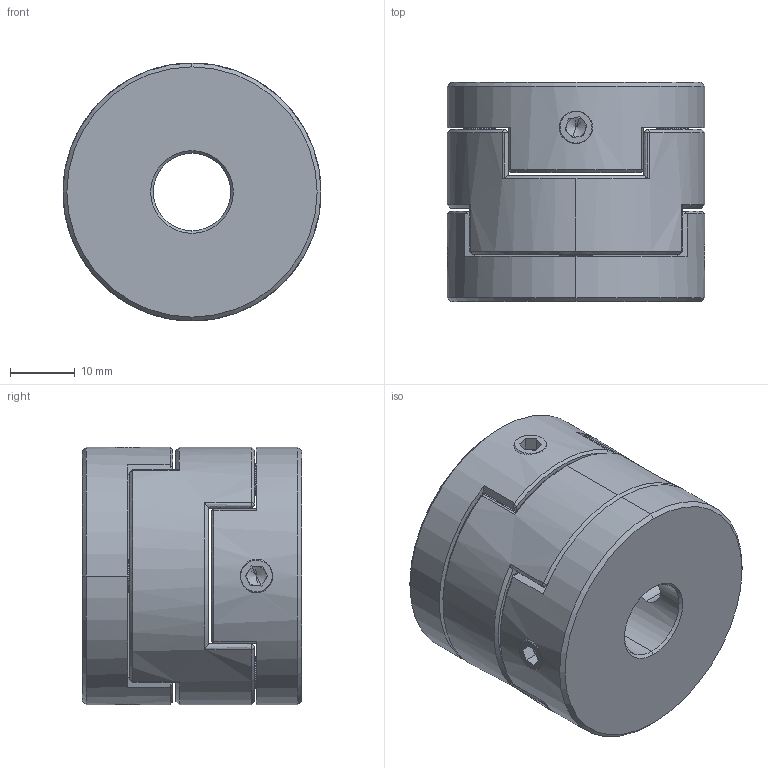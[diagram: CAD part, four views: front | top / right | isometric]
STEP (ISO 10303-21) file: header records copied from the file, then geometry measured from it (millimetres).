
FILE_DESCRIPTION (( 'STEP AP203' ), '1' );
FILE_NAME ('LZ-D-D40L35-12-20.STEP', '2021-10-30T05:20:42', ( '' ), ( '' ), 'SwSTEP 2.0', 'SolidWorks 2018', '' );
FILE_SCHEMA (( 'CONFIG_CONTROL_DESIGN' ));
Length unit declared in the file: millimetre
Products named in the file (1): LZ-D-D40L35-12-20
Bounding box: 40 x 34 x 40 mm (x, y, z)
Volume: 33490.1 mm3; surface area: 12307.4 mm2
Topology: 1 solids, 1 shells, 218 faces, 548 edges, 331 vertices
Faces by surface type: plane 89, bspline 55, cone 48, cylinder 26
Entity records: 7784 total; most frequent: CARTESIAN_POINT 3024, ORIENTED_EDGE 1080, DIRECTION 800, EDGE_CURVE 540, VERTEX_POINT 331, AXIS2_PLACEMENT_3D 290, EDGE_LOOP 243, LINE 220
